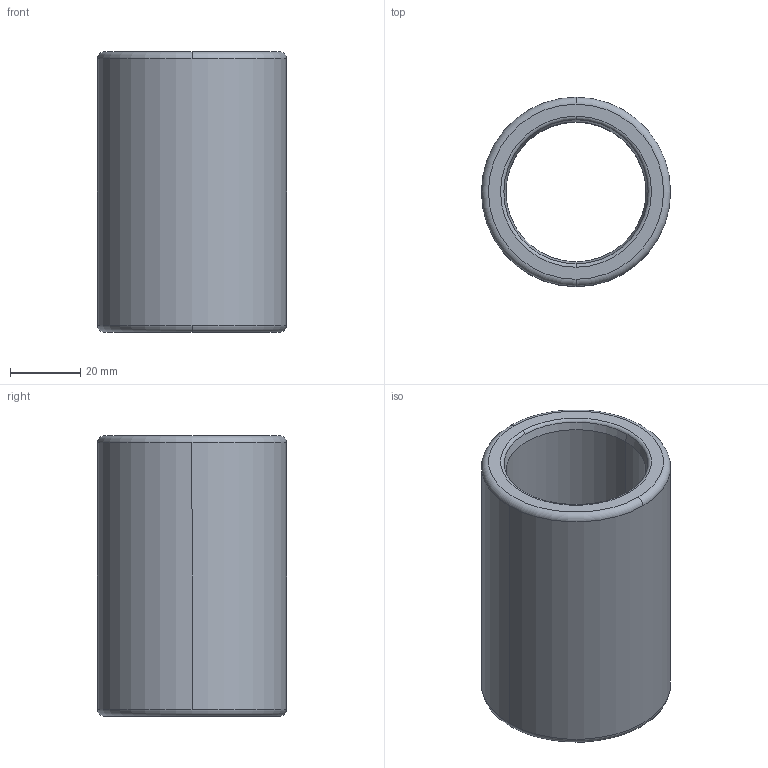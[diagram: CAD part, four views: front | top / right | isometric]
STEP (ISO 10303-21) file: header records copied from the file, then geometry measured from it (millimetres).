
FILE_DESCRIPTION((''),'2;1');
FILE_NAME('B30_032_080.stp','2009-01-12T10:27:46',(''),(''),'Mechanical Desktop 2009','Mechanical Desktop 2009',', , ');
FILE_SCHEMA(('CONFIG_CONTROL_DESIGN'));
Length unit declared in the file: millimetre
Products named in the file (2): Product; blmdl1
Assembly tree (1 placements, depth 2):
  Product
    blmdl1
Bounding box: 53.99 x 53.99 x 80 mm (x, y, z)
Volume: 82150.2 mm3; surface area: 25163.1 mm2
Topology: 1 solids, 1 shells, 18 faces, 48 edges, 32 vertices
Faces by surface type: torus 8, cylinder 4, cone 4, plane 2
Entity records: 705 total; most frequent: DIRECTION 128, CARTESIAN_POINT 100, ORIENTED_EDGE 96, AXIS2_PLACEMENT_3D 60, EDGE_CURVE 48, CIRCLE 40, VERTEX_POINT 32, EDGE_LOOP 20
